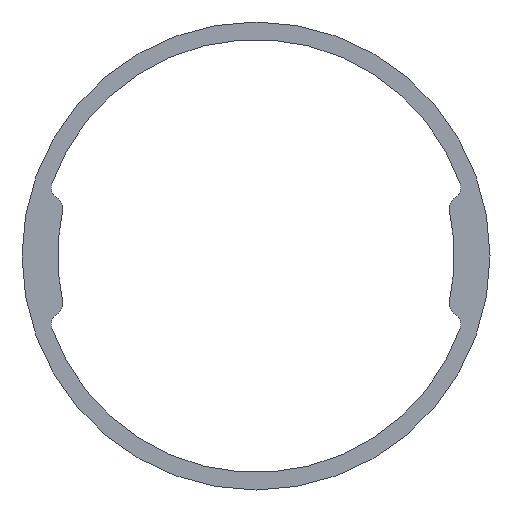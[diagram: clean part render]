
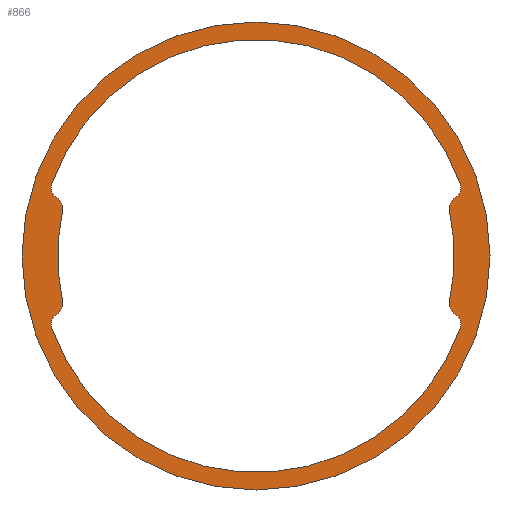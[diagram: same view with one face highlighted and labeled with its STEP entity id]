
A CAD part, front view. The second image highlights one B-rep face of the part: STEP entity #866.
In plain terms, the highlighted planar face has unit normal (0, -1, 0).
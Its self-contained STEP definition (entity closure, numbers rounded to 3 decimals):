
#21=FACE_BOUND('',#273,.T.);
#168=PLANE('',#989);
#217=FACE_OUTER_BOUND('',#272,.T.);
#272=EDGE_LOOP('',(#795));
#273=EDGE_LOOP('',(#796,#797,#798,#799,#800,#801,#802,#803,#804,#805,#806,
#807));
#309=CIRCLE('',#942,93.);
#310=CIRCLE('',#944,5.);
#311=CIRCLE('',#946,5.742);
#312=CIRCLE('',#948,85.252);
#313=CIRCLE('',#950,5.742);
#314=CIRCLE('',#952,5.);
#315=CIRCLE('',#954,93.);
#316=CIRCLE('',#956,5.);
#317=CIRCLE('',#958,5.742);
#318=CIRCLE('',#960,85.252);
#319=CIRCLE('',#962,5.742);
#320=CIRCLE('',#964,5.);
#329=CIRCLE('',#975,100.5);
#411=VERTEX_POINT('',#1463);
#412=VERTEX_POINT('',#1464);
#413=VERTEX_POINT('',#1469);
#414=VERTEX_POINT('',#1473);
#415=VERTEX_POINT('',#1477);
#416=VERTEX_POINT('',#1481);
#417=VERTEX_POINT('',#1485);
#418=VERTEX_POINT('',#1489);
#419=VERTEX_POINT('',#1493);
#420=VERTEX_POINT('',#1497);
#421=VERTEX_POINT('',#1501);
#422=VERTEX_POINT('',#1505);
#425=VERTEX_POINT('',#1523);
#513=EDGE_CURVE('',#411,#412,#309,.T.);
#516=EDGE_CURVE('',#413,#411,#310,.T.);
#518=EDGE_CURVE('',#414,#413,#311,.T.);
#520=EDGE_CURVE('',#415,#414,#312,.T.);
#522=EDGE_CURVE('',#416,#415,#313,.T.);
#524=EDGE_CURVE('',#417,#416,#314,.T.);
#526=EDGE_CURVE('',#418,#417,#315,.T.);
#528=EDGE_CURVE('',#419,#418,#316,.T.);
#530=EDGE_CURVE('',#420,#419,#317,.T.);
#532=EDGE_CURVE('',#421,#420,#318,.T.);
#534=EDGE_CURVE('',#422,#421,#319,.T.);
#536=EDGE_CURVE('',#412,#422,#320,.T.);
#547=EDGE_CURVE('',#425,#425,#329,.T.);
#795=ORIENTED_EDGE('',*,*,#547,.F.);
#796=ORIENTED_EDGE('',*,*,#536,.F.);
#797=ORIENTED_EDGE('',*,*,#513,.F.);
#798=ORIENTED_EDGE('',*,*,#516,.F.);
#799=ORIENTED_EDGE('',*,*,#518,.F.);
#800=ORIENTED_EDGE('',*,*,#520,.F.);
#801=ORIENTED_EDGE('',*,*,#522,.F.);
#802=ORIENTED_EDGE('',*,*,#524,.F.);
#803=ORIENTED_EDGE('',*,*,#526,.F.);
#804=ORIENTED_EDGE('',*,*,#528,.F.);
#805=ORIENTED_EDGE('',*,*,#530,.F.);
#806=ORIENTED_EDGE('',*,*,#532,.F.);
#807=ORIENTED_EDGE('',*,*,#534,.F.);
#866=ADVANCED_FACE('',(#217,#21),#168,.F.);
#942=AXIS2_PLACEMENT_3D('',#1465,#1150,#1151);
#944=AXIS2_PLACEMENT_3D('',#1470,#1156,#1157);
#946=AXIS2_PLACEMENT_3D('',#1474,#1161,#1162);
#948=AXIS2_PLACEMENT_3D('',#1478,#1166,#1167);
#950=AXIS2_PLACEMENT_3D('',#1482,#1171,#1172);
#952=AXIS2_PLACEMENT_3D('',#1486,#1176,#1177);
#954=AXIS2_PLACEMENT_3D('',#1490,#1181,#1182);
#956=AXIS2_PLACEMENT_3D('',#1494,#1186,#1187);
#958=AXIS2_PLACEMENT_3D('',#1498,#1191,#1192);
#960=AXIS2_PLACEMENT_3D('',#1502,#1196,#1197);
#962=AXIS2_PLACEMENT_3D('',#1506,#1201,#1202);
#964=AXIS2_PLACEMENT_3D('',#1509,#1206,#1207);
#975=AXIS2_PLACEMENT_3D('',#1525,#1230,#1231);
#989=AXIS2_PLACEMENT_3D('',#1547,#1262,#1263);
#1150=DIRECTION('center_axis',(0.,-1.,0.));
#1151=DIRECTION('ref_axis',(0.943,0.,-0.334));
#1156=DIRECTION('center_axis',(0.,-1.,0.));
#1157=DIRECTION('ref_axis',(-0.943,0.,-0.334));
#1161=DIRECTION('center_axis',(0.,1.,0.));
#1162=DIRECTION('ref_axis',(0.975,0.,0.223));
#1166=DIRECTION('center_axis',(0.,-1.,0.));
#1167=DIRECTION('ref_axis',(-0.975,0.,-0.223));
#1171=DIRECTION('center_axis',(0.,1.,0.));
#1172=DIRECTION('ref_axis',(0.535,0.,0.845));
#1176=DIRECTION('center_axis',(0.,-1.,0.));
#1177=DIRECTION('ref_axis',(-0.535,0.,-0.845));
#1181=DIRECTION('center_axis',(0.,-1.,0.));
#1182=DIRECTION('ref_axis',(-0.943,0.,0.334));
#1186=DIRECTION('center_axis',(0.,-1.,0.));
#1187=DIRECTION('ref_axis',(0.943,0.,0.334));
#1191=DIRECTION('center_axis',(0.,1.,0.));
#1192=DIRECTION('ref_axis',(-0.975,0.,-0.223));
#1196=DIRECTION('center_axis',(0.,-1.,0.));
#1197=DIRECTION('ref_axis',(0.975,0.,0.223));
#1201=DIRECTION('center_axis',(0.,1.,0.));
#1202=DIRECTION('ref_axis',(-0.535,0.,-0.845));
#1206=DIRECTION('center_axis',(0.,-1.,0.));
#1207=DIRECTION('ref_axis',(0.535,0.,0.845));
#1230=DIRECTION('center_axis',(0.,1.,0.));
#1231=DIRECTION('ref_axis',(1.,0.,0.));
#1262=DIRECTION('center_axis',(0.,1.,0.));
#1263=DIRECTION('ref_axis',(1.,0.,0.));
#1463=CARTESIAN_POINT('',(-87.666,0.,-31.044));
#1464=CARTESIAN_POINT('',(87.666,0.,-31.044));
#1465=CARTESIAN_POINT('Origin',(0.,0.,0.));
#1469=CARTESIAN_POINT('',(-85.628,0.,-25.151));
#1470=CARTESIAN_POINT('Origin',(-82.953,0.,-29.375));
#1473=CARTESIAN_POINT('',(-83.103,0.,-19.019));
#1474=CARTESIAN_POINT('Origin',(-88.7,0.,-20.3));
#1477=CARTESIAN_POINT('',(-83.103,0.,19.019));
#1478=CARTESIAN_POINT('Origin',(0.,0.,0.));
#1481=CARTESIAN_POINT('',(-85.628,0.,25.151));
#1482=CARTESIAN_POINT('Origin',(-88.7,0.,20.3));
#1485=CARTESIAN_POINT('',(-87.666,0.,31.044));
#1486=CARTESIAN_POINT('Origin',(-82.953,0.,29.375));
#1489=CARTESIAN_POINT('',(87.666,0.,31.044));
#1490=CARTESIAN_POINT('Origin',(0.,0.,0.));
#1493=CARTESIAN_POINT('',(85.628,0.,25.151));
#1494=CARTESIAN_POINT('Origin',(82.953,0.,29.375));
#1497=CARTESIAN_POINT('',(83.103,0.,19.019));
#1498=CARTESIAN_POINT('Origin',(88.7,0.,20.3));
#1501=CARTESIAN_POINT('',(83.103,0.,-19.019));
#1502=CARTESIAN_POINT('Origin',(0.,0.,0.));
#1505=CARTESIAN_POINT('',(85.628,0.,-25.151));
#1506=CARTESIAN_POINT('Origin',(88.7,0.,-20.3));
#1509=CARTESIAN_POINT('Origin',(82.953,0.,-29.375));
#1523=CARTESIAN_POINT('',(-100.5,0.,0.));
#1525=CARTESIAN_POINT('Origin',(0.,0.,0.));
#1547=CARTESIAN_POINT('Origin',(88.7,0.,-20.3));
